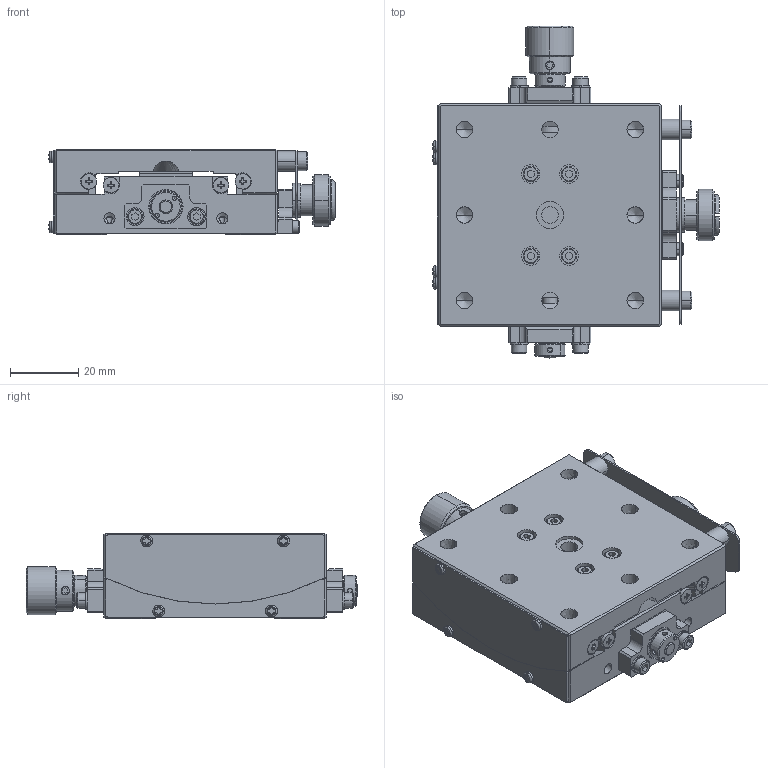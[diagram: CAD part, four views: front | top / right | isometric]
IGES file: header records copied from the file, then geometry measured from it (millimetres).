
Global section: file name: No Iges File Name specified; native system: AutoDesk Inventor R12.0; preprocessor: AutoDesk Inventor Iges Exporter R12.0; date: 20140513.194234; units: millimetre
Bounding box: 83.74 x 97.1 x 25 mm (x, y, z)
Volume: 88421.3 mm3; surface area: 41416.6 mm2
Topology: 2 solids, 42 shells, 1423 faces, 3551 edges, 2234 vertices
Faces by surface type: plane 586, bspline 387, cylinder 199, cone 108, revolution 101, torus 26, sphere 16
